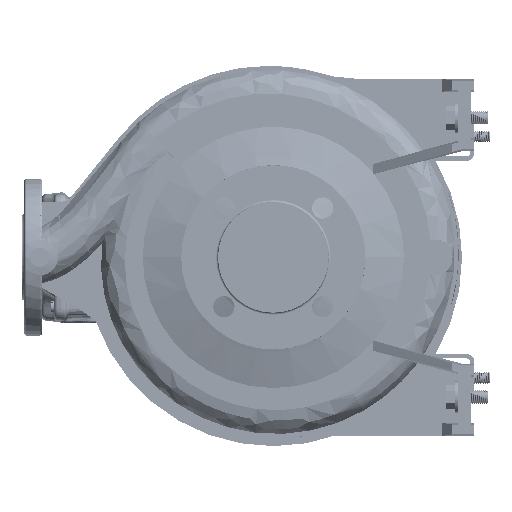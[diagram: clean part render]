
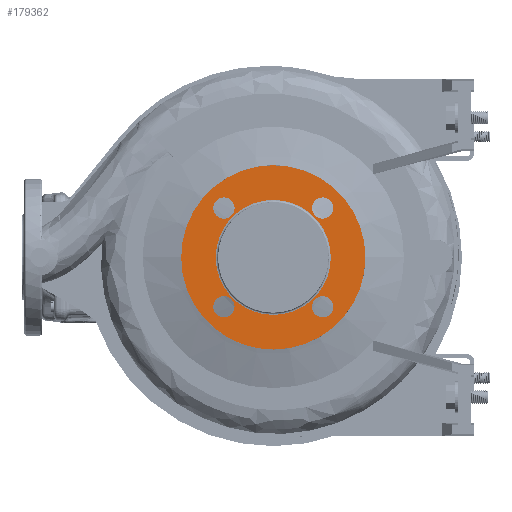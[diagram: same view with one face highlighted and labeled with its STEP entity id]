
A CAD part, left-side view. The second image highlights one B-rep face of the part: STEP entity #179362.
In plain terms, the highlighted planar face has unit normal (-1, 0, 0).
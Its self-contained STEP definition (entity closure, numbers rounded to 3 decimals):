
#516 = CARTESIAN_POINT ( 'NONE',  ( -107.278, 237.714, 333.126 ) ) ;
#1449 = DIRECTION ( 'NONE',  ( 0., 0., -1. ) ) ;
#4691 = DIRECTION ( 'NONE',  ( 0., 1., 0. ) ) ;
#5205 = CIRCLE ( 'NONE', #26053, 9.5 ) ;
#6737 = VERTEX_POINT ( 'NONE', #9610 ) ;
#8674 = VERTEX_POINT ( 'NONE', #148990 ) ;
#9610 = CARTESIAN_POINT ( 'NONE',  ( -107.278, 186.214, 333.126 ) ) ;
#10325 = AXIS2_PLACEMENT_3D ( 'NONE', #58610, #115527, #172463 ) ;
#10604 = FACE_BOUND ( 'NONE', #183354, .T. ) ;
#11767 = DIRECTION ( 'NONE',  ( 0., -1., 0. ) ) ;
#13888 = CARTESIAN_POINT ( 'NONE',  ( -107.278, 291.409, 288.931 ) ) ;
#15098 = EDGE_LOOP ( 'NONE', ( #179658, #15575 ) ) ;
#15575 = ORIENTED_EDGE ( 'NONE', *, *, #106548, .F. ) ;
#15948 = CARTESIAN_POINT ( 'NONE',  ( -107.278, 193.52, 288.931 ) ) ;
#16261 = ORIENTED_EDGE ( 'NONE', *, *, #104416, .T. ) ;
#18179 = VERTEX_POINT ( 'NONE', #130525 ) ;
#19581 = DIRECTION ( 'NONE',  ( 1., 0., 0. ) ) ;
#23780 = ORIENTED_EDGE ( 'NONE', *, *, #173210, .F. ) ;
#24567 = FACE_BOUND ( 'NONE', #68070, .T. ) ;
#25018 = CIRCLE ( 'NONE', #75618, 9.5 ) ;
#26053 = AXIS2_PLACEMENT_3D ( 'NONE', #173035, #89040, #145969 ) ;
#26874 = VERTEX_POINT ( 'NONE', #167501 ) ;
#28766 = AXIS2_PLACEMENT_3D ( 'NONE', #141397, #56478, #1449 ) ;
#29607 = CIRCLE ( 'NONE', #89274, 9.5 ) ;
#29649 = ORIENTED_EDGE ( 'NONE', *, *, #143012, .T. ) ;
#32317 = VERTEX_POINT ( 'NONE', #132316 ) ;
#34727 = AXIS2_PLACEMENT_3D ( 'NONE', #114459, #43554, #170476 ) ;
#34775 = DIRECTION ( 'NONE',  ( 1., 0., 0. ) ) ;
#34845 = EDGE_LOOP ( 'NONE', ( #167028, #91363 ) ) ;
#37087 = CARTESIAN_POINT ( 'NONE',  ( -107.278, 281.909, 288.931 ) ) ;
#37647 = ORIENTED_EDGE ( 'NONE', *, *, #91509, .F. ) ;
#40484 = DIRECTION ( 'NONE',  ( 0., 1., 0. ) ) ;
#41960 = EDGE_CURVE ( 'NONE', #62550, #144896, #148007, .T. ) ;
#43554 = DIRECTION ( 'NONE',  ( -1., 0., 0. ) ) ;
#48294 = AXIS2_PLACEMENT_3D ( 'NONE', #516, #57371, #114290 ) ;
#49131 = CARTESIAN_POINT ( 'NONE',  ( -107.278, 203.02, 377.32 ) ) ;
#49969 = CARTESIAN_POINT ( 'NONE',  ( -107.278, 291.409, 377.32 ) ) ;
#52740 = ORIENTED_EDGE ( 'NONE', *, *, #110275, .F. ) ;
#54195 = CIRCLE ( 'NONE', #78060, 9.5 ) ;
#56478 = DIRECTION ( 'NONE',  ( -1., 0., 0. ) ) ;
#57153 = DIRECTION ( 'NONE',  ( -1., 0., 0. ) ) ;
#57371 = DIRECTION ( 'NONE',  ( 1., 0., 0. ) ) ;
#58610 = CARTESIAN_POINT ( 'NONE',  ( -107.278, 193.52, 288.931 ) ) ;
#59273 = AXIS2_PLACEMENT_3D ( 'NONE', #131824, #34775, #129992 ) ;
#59446 = EDGE_CURVE ( 'NONE', #26874, #127221, #106318, .T. ) ;
#60819 = FACE_OUTER_BOUND ( 'NONE', #75722, .T. ) ;
#62550 = VERTEX_POINT ( 'NONE', #49969 ) ;
#62559 = CARTESIAN_POINT ( 'NONE',  ( -107.278, 203.02, 288.931 ) ) ;
#63423 = EDGE_CURVE ( 'NONE', #32317, #96728, #5205, .T. ) ;
#64445 = VERTEX_POINT ( 'NONE', #160037 ) ;
#65966 = DIRECTION ( 'NONE',  ( 0., 0., 1. ) ) ;
#67474 = FACE_BOUND ( 'NONE', #110859, .T. ) ;
#68070 = EDGE_LOOP ( 'NONE', ( #119195, #52740 ) ) ;
#72071 = CARTESIAN_POINT ( 'NONE',  ( -107.278, 289.214, 333.126 ) ) ;
#75618 = AXIS2_PLACEMENT_3D ( 'NONE', #100840, #129745, #143738 ) ;
#75722 = EDGE_LOOP ( 'NONE', ( #37647, #109899 ) ) ;
#77195 = CIRCLE ( 'NONE', #148598, 51.5 ) ;
#78060 = AXIS2_PLACEMENT_3D ( 'NONE', #37087, #135097, #65966 ) ;
#80623 = DIRECTION ( 'NONE',  ( 1., 0., 0. ) ) ;
#81268 = CARTESIAN_POINT ( 'NONE',  ( -107.278, 272.409, 377.32 ) ) ;
#81478 = FACE_BOUND ( 'NONE', #34845, .T. ) ;
#84368 = ORIENTED_EDGE ( 'NONE', *, *, #41960, .F. ) ;
#88851 = DIRECTION ( 'NONE',  ( 0., -1., 0. ) ) ;
#89040 = DIRECTION ( 'NONE',  ( -1., 0., 0. ) ) ;
#89274 = AXIS2_PLACEMENT_3D ( 'NONE', #15948, #143752, #129760 ) ;
#90752 = CIRCLE ( 'NONE', #10325, 9.5 ) ;
#91363 = ORIENTED_EDGE ( 'NONE', *, *, #114279, .F. ) ;
#91509 = EDGE_CURVE ( 'NONE', #8674, #18179, #137675, .T. ) ;
#96728 = VERTEX_POINT ( 'NONE', #13888 ) ;
#96885 = EDGE_CURVE ( 'NONE', #64445, #99596, #90752, .T. ) ;
#99596 = VERTEX_POINT ( 'NONE', #62559 ) ;
#100840 = CARTESIAN_POINT ( 'NONE',  ( -107.278, 193.52, 377.32 ) ) ;
#101623 = CARTESIAN_POINT ( 'NONE',  ( -107.278, 289.214, 333.126 ) ) ;
#104416 = EDGE_CURVE ( 'NONE', #124015, #6737, #169589, .T. ) ;
#106318 = CIRCLE ( 'NONE', #28766, 9.5 ) ;
#106548 = EDGE_CURVE ( 'NONE', #99596, #64445, #29607, .T. ) ;
#106912 = CIRCLE ( 'NONE', #154591, 82.5 ) ;
#109899 = ORIENTED_EDGE ( 'NONE', *, *, #145082, .F. ) ;
#110275 = EDGE_CURVE ( 'NONE', #96728, #32317, #54195, .T. ) ;
#110859 = EDGE_LOOP ( 'NONE', ( #16261, #29649 ) ) ;
#112995 = AXIS2_PLACEMENT_3D ( 'NONE', #72071, #57153, #88851 ) ;
#114279 = EDGE_CURVE ( 'NONE', #127221, #26874, #25018, .T. ) ;
#114290 = DIRECTION ( 'NONE',  ( 0., 1., 0. ) ) ;
#114459 = CARTESIAN_POINT ( 'NONE',  ( -107.278, 281.909, 377.32 ) ) ;
#115527 = DIRECTION ( 'NONE',  ( -1., 0., 0. ) ) ;
#119195 = ORIENTED_EDGE ( 'NONE', *, *, #63423, .F. ) ;
#124015 = VERTEX_POINT ( 'NONE', #101623 ) ;
#124633 = CARTESIAN_POINT ( 'NONE',  ( -107.278, 281.909, 377.32 ) ) ;
#125389 = CARTESIAN_POINT ( 'NONE',  ( -107.278, 237.714, 333.126 ) ) ;
#127221 = VERTEX_POINT ( 'NONE', #49131 ) ;
#129745 = DIRECTION ( 'NONE',  ( -1., 0., 0. ) ) ;
#129760 = DIRECTION ( 'NONE',  ( 0., 1., 0. ) ) ;
#129992 = DIRECTION ( 'NONE',  ( 0., 1., 0. ) ) ;
#130525 = CARTESIAN_POINT ( 'NONE',  ( -107.278, 155.214, 333.126 ) ) ;
#131824 = CARTESIAN_POINT ( 'NONE',  ( -107.278, 237.714, 333.126 ) ) ;
#132316 = CARTESIAN_POINT ( 'NONE',  ( -107.278, 272.409, 288.931 ) ) ;
#135097 = DIRECTION ( 'NONE',  ( -1., 0., 0. ) ) ;
#135970 = CIRCLE ( 'NONE', #34727, 9.5 ) ;
#137675 = CIRCLE ( 'NONE', #48294, 82.5 ) ;
#141179 = FACE_BOUND ( 'NONE', #15098, .T. ) ;
#141397 = CARTESIAN_POINT ( 'NONE',  ( -107.278, 193.52, 377.32 ) ) ;
#143012 = EDGE_CURVE ( 'NONE', #6737, #124015, #77195, .T. ) ;
#143738 = DIRECTION ( 'NONE',  ( 0., 0., -1. ) ) ;
#143752 = DIRECTION ( 'NONE',  ( -1., 0., 0. ) ) ;
#144896 = VERTEX_POINT ( 'NONE', #81268 ) ;
#145082 = EDGE_CURVE ( 'NONE', #18179, #8674, #106912, .T. ) ;
#145969 = DIRECTION ( 'NONE',  ( 0., 0., 1. ) ) ;
#148007 = CIRCLE ( 'NONE', #162937, 9.5 ) ;
#148598 = AXIS2_PLACEMENT_3D ( 'NONE', #125389, #80623, #40484 ) ;
#148990 = CARTESIAN_POINT ( 'NONE',  ( -107.278, 320.214, 333.126 ) ) ;
#154591 = AXIS2_PLACEMENT_3D ( 'NONE', #176300, #19581, #4691 ) ;
#160037 = CARTESIAN_POINT ( 'NONE',  ( -107.278, 184.02, 288.931 ) ) ;
#162937 = AXIS2_PLACEMENT_3D ( 'NONE', #124633, #179723, #11767 ) ;
#167028 = ORIENTED_EDGE ( 'NONE', *, *, #59446, .F. ) ;
#167501 = CARTESIAN_POINT ( 'NONE',  ( -107.278, 184.02, 377.32 ) ) ;
#169589 = CIRCLE ( 'NONE', #59273, 51.5 ) ;
#170476 = DIRECTION ( 'NONE',  ( 0., -1., 0. ) ) ;
#171944 = PLANE ( 'NONE',  #112995 ) ;
#172463 = DIRECTION ( 'NONE',  ( 0., 1., 0. ) ) ;
#173035 = CARTESIAN_POINT ( 'NONE',  ( -107.278, 281.909, 288.931 ) ) ;
#173210 = EDGE_CURVE ( 'NONE', #144896, #62550, #135970, .T. ) ;
#176300 = CARTESIAN_POINT ( 'NONE',  ( -107.278, 237.714, 333.126 ) ) ;
#179362 = ADVANCED_FACE ( 'NONE', ( #24567, #141179, #81478, #10604, #67474, #60819 ), #171944, .T. ) ;
#179658 = ORIENTED_EDGE ( 'NONE', *, *, #96885, .F. ) ;
#179723 = DIRECTION ( 'NONE',  ( -1., 0., 0. ) ) ;
#183354 = EDGE_LOOP ( 'NONE', ( #23780, #84368 ) ) ;
